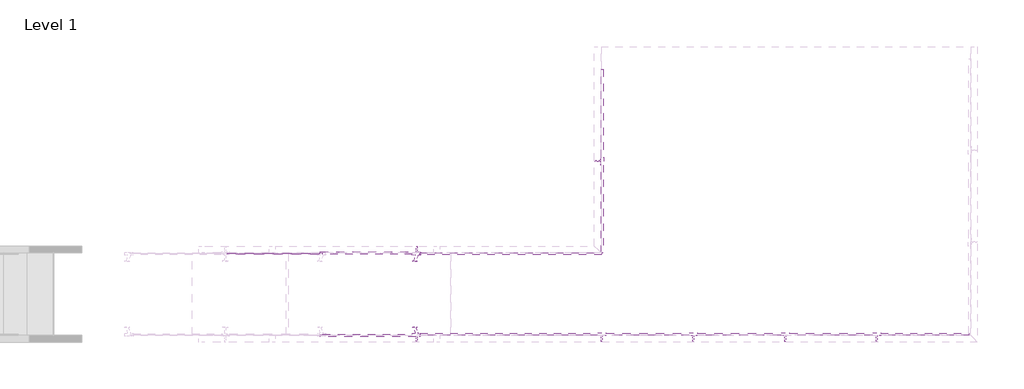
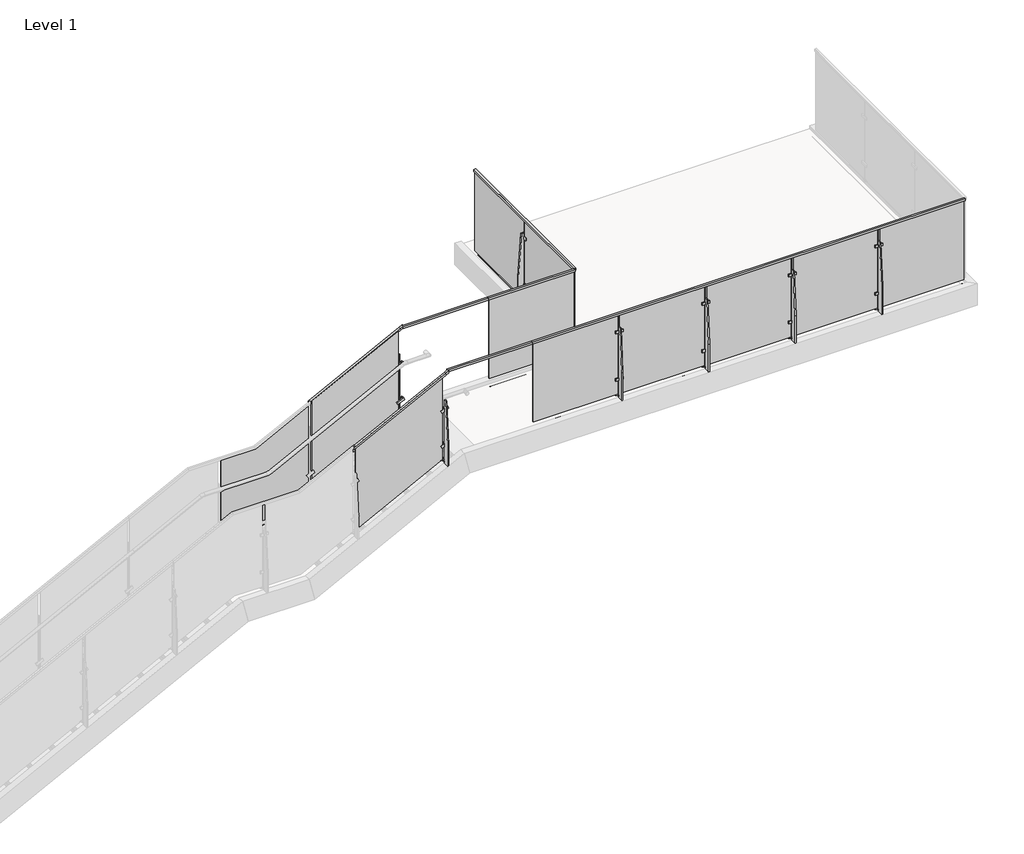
# One storey, part 29 of 37: 6 railings.
"""IFC4 building model written with IfcOpenShell, lengths in millimetres."""

from ifc_helpers import new_model, si_unit, point, frame, frame_2d, origin, place, context, project, spatial, polyline, circle_curve, trimmed, segment, composite_curve, outline, extrude, faceted_brep, transform, mapped, element, save
from components import baluster_landing_panel_viva_solo_upper_standard_glass_274dfbd6

model = new_model("IFC4")

# Units and contexts
model_context = context("Model", 3, world=origin())
ifc_project = project(units=[si_unit("LENGTHUNIT", "METRE", prefix="MILLI")], contexts=[model_context])

# Site, building, storey
site = spatial("IfcSite", under=ifc_project)
building = spatial("IfcBuilding", under=site)
storey = spatial("IfcBuildingStorey", under=building, Name="Level 1", Elevation=0.0)

# Railings
placement = place(None, origin())
element("IfcRailing", 1, ObjectType="VIVA-SOLO-Glass-Top_Weld_Steel-Channel Mount-Stair_Right_Upper", at=placement, inside=storey, context=model_context, shape_type="SolidModel", body=[
    faceted_brep([(6699.3721922, 12955.0881645, 3564.4038176), (6699.3721922, 12977.3131645, 3564.4038176), (6699.3721922, 12977.3131645, 3535.902629), (6699.3721922, 12972.5506645, 3535.902629), (6699.3721922, 12972.5506645, 3559.0598447), (6699.3721922, 12959.8506645, 3559.0598447), (6699.3721922, 12959.8506645, 3535.902629), (6699.3721922, 12955.0881645, 3535.902629), (7766.1721922, 12955.0881645, 4107.4197243), (7766.1721922, 12977.3131645, 4107.4197243), (7777.694355, 12977.3131645, 4084.7834754), (7777.694355, 12972.5506645, 4084.7834754), (7768.3325977, 12972.5506645, 4103.1754276), (7768.3325977, 12959.8506645, 4103.1754276), (7777.694355, 12959.8506645, 4084.7834754), (7777.694355, 12955.0881645, 4084.7834754), (7805.6215672, 12955.0881645, 4127.5), (7805.6215672, 12955.0881645, 4098.9988114), (7805.6215672, 12959.8506645, 4098.9988114), (7805.6215672, 12959.8506645, 4122.1560271), (7805.6215672, 12972.5506645, 4122.1560271), (7805.6215672, 12972.5506645, 4098.9988114), (7805.6215672, 12977.3131645, 4098.9988114), (7805.6215672, 12977.3131645, 4127.5)], [[[0, 1, 2, 3, 4, 5, 6, 7]], [[1, 0, 8, 9]], [[2, 1, 9, 10]], [[3, 2, 10, 11]], [[4, 3, 11, 12]], [[5, 4, 12, 13]], [[6, 5, 13, 14]], [[7, 6, 14, 15]], [[0, 7, 15, 8]], [[16, 17, 18, 19, 20, 21, 22, 23]], [[9, 8, 16, 23]], [[10, 9, 23, 22]], [[11, 10, 22, 21]], [[12, 11, 21, 20]], [[13, 12, 20, 19]], [[14, 13, 19, 18]], [[15, 14, 18, 17]], [[8, 15, 17, 16]]]),
    extrude(outline(polyline([(4089.1567741, 7741.1552388), (3571.9987678, 6725.1552388), (2520.7181612, 6725.1552388), (3037.8761676, 7741.1552388), (4089.1567741, 7741.1552388)])), frame((0.0, 12969.7566645, 0.0), z_axis=(0.0, 1.0, 0.0), x_axis=(0.0, 0.0, 1.0)), (0.0, 0.0, 1.0), 12.7),
    extrude(outline(polyline([(-12.7, 0.0), (-12.7, 3.175), (50.8, 65.0875), (61.9125, 65.0875), (61.9125, 34.9249999), (58.7375, 34.9249999), (0.0, 3.175), (0.0, 0.0), (-12.7, 0.0)])), frame((7738.5545874, 13054.1451983, 3695.170901), z_axis=(0.8987940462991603, 0.0, 0.4383711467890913), x_axis=(0.0, -1.0, 0.0)), (0.0, 0.0, 1.0), 12.7),
    extrude(outline(polyline([(12960.1681645, 3777.2197243), (12960.1681645, 2987.3051177), (12896.6681645, 2987.3051177), (12896.6681645, 3243.8197243), (12934.7681645, 3777.2197243), (12960.1681645, 3777.2197243)])), frame((7759.8221922, 0.0, 0.0), z_axis=(1.0, 0.0, 0.0), x_axis=(0.0, 1.0, 0.0)), (0.0, 0.0, 1.0), 12.7),
    extrude(outline(polyline([(0.0, -88.9), (0.0, 0.0), (9.525, 0.0), (9.525, -88.9), (0.0, -88.9)])), frame((7813.093764, 12970.0076983, 3221.0481954), z_axis=(-0.4383711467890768, 0.0, 0.8987940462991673), x_axis=(0.0, -1.0, 0.0)), (0.0, 0.0, 1.0), 31.75),
    extrude(outline(polyline([(0.0, -88.9), (0.0, 0.0), (9.525, 0.0), (9.525, -88.9), (0.0, -88.9)])), frame((7813.093764, 12992.2326983, 3658.22648), z_axis=(-0.4383711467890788, 0.0, 0.8987940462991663), x_axis=(0.0, -1.0, 0.0)), (0.0, 0.0, 1.0), 31.75),
    extrude(outline(polyline([(0.0, -88.9), (0.0, 0.0), (9.525, 0.0), (9.525, -88.9), (0.0, -88.9)])), frame((7813.093764, 12970.0076983, 3658.22648), z_axis=(-0.4383711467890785, 0.0, 0.8987940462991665), x_axis=(0.0, -1.0, 0.0)), (0.0, 0.0, 1.0), 31.75),
    extrude(outline(polyline([(0.0, -88.9), (0.0, 0.0), (9.525, 0.0), (9.525, -88.9), (0.0, -88.9)])), frame((7813.093764, 12992.2326983, 3221.0481954), z_axis=(-0.43837114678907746, 0.0, 0.898794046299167), x_axis=(0.0, -1.0, 0.0)), (0.0, 0.0, 1.0), 31.75),
    extrude(outline(polyline([(3064.4962763, 7801.9451494), (3070.2036185, 7799.1614927), (3031.2324235, 7719.2587019), (3025.5250813, 7722.0423587), (3025.313923, 7771.6005038), (3064.4962763, 7801.9451494)])), frame((0.0, 12970.0076983, 0.0), z_axis=(0.0, 1.0, 0.0), x_axis=(0.0, 0.0, 1.0)), (0.0, 0.0, 1.0), 12.7),
    extrude(outline(composite_curve([segment(polyline([(0.0, 0.0), (2.8057896, 0.0)]), True, "CONTINUOUS"), segment(trimmed(circle_curve(frame_2d((26.8875078, 8.0765616)), 25.4), [point((2.8057896, 0.0))], [point((8.7901892, -9.7460941))], True, "CARTESIAN"), True, "CONTINUOUS"), segment(polyline([(8.7901892, -9.7460941), (6.4034746, -11.1240644)]), True, "CONTINUOUS"), segment(trimmed(circle_curve(frame_2d((24.5007933, 6.6985913)), 25.4), [point((6.4034746, -11.1240644))], [point((0.0, 0.0))], False, "CARTESIAN"), True, "CONTINUOUS")], self_intersect=False)), frame((7722.6334698, 13054.0459519, 3684.3577023), z_axis=(0.8987940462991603, 0.0, 0.4383711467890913), x_axis=(-0.3796405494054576, 0.5000000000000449, 0.7783784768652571)), (0.0, 0.0, 1.0), 50.8),
    extrude(outline(composite_curve([segment(trimmed(circle_curve(frame_2d((3234.0755783, 7766.1832267)), 6.35), [point((3234.0755783, 7772.5332267))], [point((3234.0755783, 7759.8332267))], False, "CARTESIAN"), True, "CONTINUOUS"), segment(trimmed(circle_curve(frame_2d((3234.0755783, 7766.1832267)), 6.35), [point((3234.0755783, 7759.8332267))], [point((3234.0755783, 7772.5332267))], False, "CARTESIAN"), True, "CONTINUOUS")], self_intersect=False)), frame((0.0, 12970.0076983, 0.0), z_axis=(0.0, 1.0, 0.0), x_axis=(0.0, 0.0, 1.0)), (0.0, 0.0, 1.0), 12.7),
    extrude(outline(composite_curve([segment(trimmed(circle_curve(frame_2d((3652.3146879, 7766.1832267)), 6.35), [point((3652.3146879, 7772.5332267))], [point((3652.3146879, 7759.8332267))], False, "CARTESIAN"), True, "CONTINUOUS"), segment(trimmed(circle_curve(frame_2d((3652.3146879, 7766.1832267)), 6.35), [point((3652.3146879, 7759.8332267))], [point((3652.3146879, 7772.5332267))], False, "CARTESIAN"), True, "CONTINUOUS")], self_intersect=False)), frame((0.0, 12970.0076983, 0.0), z_axis=(0.0, 1.0, 0.0), x_axis=(0.0, 0.0, 1.0)), (0.0, 0.0, 1.0), 12.7),
    extrude(outline(composite_curve([segment(trimmed(circle_curve(frame_2d((3011.1911149, 7766.1832267)), 11.1125), [point((3011.1911149, 7777.2957267))], [point((3011.1911149, 7755.0707267))], False, "CARTESIAN"), True, "CONTINUOUS"), segment(trimmed(circle_curve(frame_2d((3011.1911149, 7766.1832267)), 11.1125), [point((3011.1911149, 7755.0707267))], [point((3011.1911149, 7777.2957267))], False, "CARTESIAN"), True, "CONTINUOUS")], self_intersect=False)), frame((0.0, 12960.4826983, 0.0), z_axis=(0.0, 1.0, 0.0), x_axis=(0.0, 0.0, 1.0)), (0.0, 0.0, 1.0), 25.4),
])
element("IfcRailing", 2, ObjectType="VIVA-SOLO-Glass-Top_Weld_Steel-Channel Mount-Stair_Left", at=placement, inside=storey, context=model_context, shape_type="SolidModel", body=[
    faceted_brep([(6699.3721922, 13874.5681645, 3564.4038176), (6699.3721922, 13896.7931645, 3564.4038176), (6699.3721922, 13896.7931645, 3535.902629), (6699.3721922, 13892.0306645, 3535.902629), (6699.3721922, 13892.0306645, 3559.0598447), (6699.3721922, 13879.3306645, 3559.0598447), (6699.3721922, 13879.3306645, 3535.902629), (6699.3721922, 13874.5681645, 3535.902629), (7766.1721922, 13874.5681645, 4107.4197243), (7766.1721922, 13896.7931645, 4107.4197243), (7777.694355, 13896.7931645, 4084.7834754), (7777.694355, 13892.0306645, 4084.7834754), (7768.3325977, 13892.0306645, 4103.1754276), (7768.3325977, 13879.3306645, 4103.1754276), (7777.694355, 13879.3306645, 4084.7834754), (7777.694355, 13874.5681645, 4084.7834754), (7805.6215672, 13874.5681645, 4127.5), (7805.6215672, 13874.5681645, 4098.9988114), (7805.6215672, 13879.3306645, 4098.9988114), (7805.6215672, 13879.3306645, 4122.1560271), (7805.6215672, 13892.0306645, 4122.1560271), (7805.6215672, 13892.0306645, 4098.9988114), (7805.6215672, 13896.7931645, 4098.9988114), (7805.6215672, 13896.7931645, 4127.5)], [[[0, 1, 2, 3, 4, 5, 6, 7]], [[1, 0, 8, 9]], [[2, 1, 9, 10]], [[3, 2, 10, 11]], [[4, 3, 11, 12]], [[5, 4, 12, 13]], [[6, 5, 13, 14]], [[7, 6, 14, 15]], [[0, 7, 15, 8]], [[16, 17, 18, 19, 20, 21, 22, 23]], [[9, 8, 16, 23]], [[10, 9, 23, 22]], [[11, 10, 22, 21]], [[12, 11, 21, 20]], [[13, 12, 20, 19]], [[14, 13, 19, 18]], [[15, 14, 18, 17]], [[8, 15, 17, 16]]]),
    extrude(outline(polyline([(4089.1567741, 7741.1552388), (3571.9987678, 6725.1552388), (2520.7181612, 6725.1552388), (3037.8761676, 7741.1552388), (4089.1567741, 7741.1552388)])), frame((0.0, 13869.4246645, 0.0), z_axis=(0.0, 1.0, 0.0), x_axis=(0.0, 0.0, 1.0)), (0.0, 0.0, 1.0), 12.7),
    extrude(outline(polyline([(-12.7, 0.0), (0.0, 0.0), (0.0, -3.175), (58.7375, -34.9249999), (61.9125, -34.9249999), (61.9125, -65.0875), (50.8, -65.0875), (-12.7, -3.175), (-12.7, 0.0)])), frame((7738.5545874, 13797.7361306, 3695.170901), z_axis=(0.8987940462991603, 0.0, 0.4383711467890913), x_axis=(0.0, 1.0, 0.0)), (0.0, 0.0, 1.0), 12.7),
    extrude(outline(polyline([(13891.7131645, 3777.2197243), (13917.1131645, 3777.2197243), (13955.2131645, 3243.8197243), (13955.2131645, 2987.3051177), (13891.7131645, 2987.3051177), (13891.7131645, 3777.2197243)])), frame((7759.8221922, 0.0, 0.0), z_axis=(1.0, 0.0, 0.0), x_axis=(0.0, 1.0, 0.0)), (0.0, 0.0, 1.0), 12.7),
    extrude(outline(polyline([(0.0, 88.9), (9.525, 88.9), (9.525, 0.0), (0.0, 0.0), (0.0, 88.9)])), frame((7813.093764, 13881.8736306, 3221.0481954), z_axis=(-0.4383711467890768, 0.0, 0.8987940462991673), x_axis=(0.0, 1.0, 0.0)), (0.0, 0.0, 1.0), 31.75),
    extrude(outline(polyline([(0.0, 88.9), (9.525, 88.9), (9.525, 0.0), (0.0, 0.0), (0.0, 88.9)])), frame((7813.093764, 13859.6486306, 3658.22648), z_axis=(-0.4383711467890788, 0.0, 0.8987940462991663), x_axis=(0.0, 1.0, 0.0)), (0.0, 0.0, 1.0), 31.75),
    extrude(outline(polyline([(0.0, 88.9), (9.525, 88.9), (9.525, 0.0), (0.0, 0.0), (0.0, 88.9)])), frame((7813.093764, 13881.8736306, 3658.22648), z_axis=(-0.4383711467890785, 0.0, 0.8987940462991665), x_axis=(0.0, 1.0, 0.0)), (0.0, 0.0, 1.0), 31.75),
    extrude(outline(polyline([(0.0, 88.9), (9.525, 88.9), (9.525, 0.0), (0.0, 0.0), (0.0, 88.9)])), frame((7813.093764, 13859.6486306, 3221.0481954), z_axis=(-0.43837114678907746, 0.0, 0.898794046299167), x_axis=(0.0, 1.0, 0.0)), (0.0, 0.0, 1.0), 31.75),
    extrude(outline(polyline([(3064.4962763, 7801.9451494), (3070.2036185, 7799.1614927), (3031.2324235, 7719.2587019), (3025.5250813, 7722.0423587), (3025.313923, 7771.6005038), (3064.4962763, 7801.9451494)])), frame((0.0, 13869.1736306, 0.0), z_axis=(0.0, 1.0, 0.0), x_axis=(0.0, 0.0, 1.0)), (0.0, 0.0, 1.0), 12.7),
    extrude(outline(composite_curve([segment(trimmed(circle_curve(frame_2d((24.5007933, -6.6985913)), 25.4), [point((0.0, 0.0))], [point((6.4034746, 11.1240644))], False, "CARTESIAN"), True, "CONTINUOUS"), segment(polyline([(6.4034746, 11.1240644), (8.7901892, 9.7460941)]), True, "CONTINUOUS"), segment(trimmed(circle_curve(frame_2d((26.8875078, -8.0765616)), 25.4), [point((8.7901892, 9.7460941))], [point((2.8057896, 0.0))], True, "CARTESIAN"), True, "CONTINUOUS"), segment(polyline([(2.8057896, 0.0), (0.0, 0.0)]), True, "CONTINUOUS")], self_intersect=False)), frame((7722.6334698, 13797.835377, 3684.3577023), z_axis=(0.8987940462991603, 0.0, 0.4383711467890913), x_axis=(-0.3796405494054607, -0.5000000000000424, 0.7783784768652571)), (0.0, 0.0, 1.0), 50.8),
    extrude(outline(composite_curve([segment(trimmed(circle_curve(frame_2d((3234.0755783, 7766.1832267)), 6.35), [point((3234.0755783, 7772.5332267))], [point((3234.0755783, 7759.8332267))], False, "CARTESIAN"), True, "CONTINUOUS"), segment(trimmed(circle_curve(frame_2d((3234.0755783, 7766.1832267)), 6.35), [point((3234.0755783, 7759.8332267))], [point((3234.0755783, 7772.5332267))], False, "CARTESIAN"), True, "CONTINUOUS")], self_intersect=False)), frame((0.0, 13869.1736306, 0.0), z_axis=(0.0, 1.0, 0.0), x_axis=(0.0, 0.0, 1.0)), (0.0, 0.0, 1.0), 12.7),
    extrude(outline(composite_curve([segment(trimmed(circle_curve(frame_2d((3652.3146879, 7766.1832267)), 6.35), [point((3652.3146879, 7772.5332267))], [point((3652.3146879, 7759.8332267))], False, "CARTESIAN"), True, "CONTINUOUS"), segment(trimmed(circle_curve(frame_2d((3652.3146879, 7766.1832267)), 6.35), [point((3652.3146879, 7759.8332267))], [point((3652.3146879, 7772.5332267))], False, "CARTESIAN"), True, "CONTINUOUS")], self_intersect=False)), frame((0.0, 13869.1736306, 0.0), z_axis=(0.0, 1.0, 0.0), x_axis=(0.0, 0.0, 1.0)), (0.0, 0.0, 1.0), 12.7),
    extrude(outline(composite_curve([segment(trimmed(circle_curve(frame_2d((3011.1911149, 7766.1832267)), 11.1125), [point((3011.1911149, 7777.2957267))], [point((3011.1911149, 7755.0707267))], False, "CARTESIAN"), True, "CONTINUOUS"), segment(trimmed(circle_curve(frame_2d((3011.1911149, 7766.1832267)), 11.1125), [point((3011.1911149, 7755.0707267))], [point((3011.1911149, 7777.2957267))], False, "CARTESIAN"), True, "CONTINUOUS")], self_intersect=False)), frame((0.0, 13865.9986306, 0.0), z_axis=(0.0, 1.0, 0.0), x_axis=(0.0, 0.0, 1.0)), (0.0, 0.0, 1.0), 25.4),
])
element("IfcRailing", 3, ObjectType="VIVA-SOLO-Glass-Top_Weld_Steel-Channel Mount-Straight", at=placement, inside=storey, context=model_context, shape_type="SolidModel", body=[
    extrude(outline(composite_curve([segment(trimmed(circle_curve(frame_2d((13017.1276645, 3047.746)), 0.254), [point((13016.8736645, 3047.746))], [point((13017.3816645, 3047.746))], False, "CARTESIAN"), True, "CONTINUOUS"), segment(trimmed(circle_curve(frame_2d((13017.1276645, 3047.746)), 0.254), [point((13017.3816645, 3047.746))], [point((13016.8736645, 3047.746))], False, "CARTESIAN"), True, "CONTINUOUS")], self_intersect=False)), frame((8799.6346922, 0.0, 0.0), z_axis=(1.0, 0.0, 0.0), x_axis=(0.0, 1.0, 0.0)), (0.0, 0.0, 1.0), 5080.0),
    extrude(outline(composite_curve([segment(trimmed(circle_curve(frame_2d((13017.1276645, 3047.746)), 0.254), [point((13016.8736645, 3047.746))], [point((13017.3816645, 3047.746))], False, "CARTESIAN"), True, "CONTINUOUS"), segment(trimmed(circle_curve(frame_2d((13017.1276645, 3047.746)), 0.254), [point((13017.3816645, 3047.746))], [point((13016.8736645, 3047.746))], False, "CARTESIAN"), True, "CONTINUOUS")], self_intersect=False)), frame((8799.6346922, 0.0, 0.0), z_axis=(1.0, 0.0, 0.0), x_axis=(0.0, 1.0, 0.0)), (0.0, 0.0, 1.0), 5080.0),
    faceted_brep([(13879.6346922, 12969.8201645, 4127.5), (13879.6346922, 12969.8201645, 4102.1), (13879.6346922, 12974.5826645, 4102.1), (13879.6346922, 12974.5826645, 4122.7375), (13879.6346922, 12987.2826645, 4122.7375), (13879.6346922, 12987.2826645, 4102.1), (13879.6346922, 12992.0451645, 4102.1), (13879.6346922, 12992.0451645, 4127.5), (8799.6346922, 12992.0451645, 4127.5), (8799.6346922, 12969.8201645, 4127.5), (8799.6346922, 12992.0451645, 4102.1), (8799.6346922, 12987.2826645, 4102.1), (8799.6346922, 12987.2826645, 4122.7375), (8799.6346922, 12974.5826645, 4122.7375), (8799.6346922, 12974.5826645, 4102.1), (8799.6346922, 12969.8201645, 4102.1), (7805.6215672, 12969.8201645, 4127.5), (7805.6215672, 12992.0451645, 4127.5), (7805.6215672, 12992.0451645, 4102.1), (7805.6215672, 12987.2826645, 4102.1), (7805.6215672, 12987.2826645, 4122.7375), (7805.6215672, 12974.5826645, 4122.7375), (7805.6215672, 12974.5826645, 4102.1), (7805.6215672, 12969.8201645, 4102.1)], [[[0, 1, 2, 3, 4, 5, 6, 7]], [[8, 9, 0, 7]], [[10, 8, 7, 6]], [[11, 10, 6, 5]], [[12, 11, 5, 4]], [[13, 12, 4, 3]], [[14, 13, 3, 2]], [[15, 14, 2, 1]], [[9, 15, 1, 0]], [[16, 17, 18, 19, 20, 21, 22, 23]], [[17, 16, 9, 8]], [[18, 17, 8, 10]], [[19, 18, 10, 11]], [[20, 19, 11, 12]], [[21, 20, 12, 13]], [[22, 21, 13, 14]], [[23, 22, 14, 15]], [[16, 23, 15, 9]]]),
    extrude(outline(polyline([(12876.7177388, 12987.2826645), (13867.3177388, 12987.2826645), (13867.3177388, 12974.5826645), (12876.7177388, 12974.5826645), (12876.7177388, 12987.2826645)])), frame((0.0, 0.0, 3124.2), z_axis=(0.0, 0.0, 1.0), x_axis=(1.0, 0.0, 0.0)), (0.0, 0.0, 1.0), 998.474),
    extrude(outline(polyline([(12965.0576645, 3962.4), (12965.0576645, 3086.1), (12901.5576645, 3086.1), (12901.5576645, 3429.0), (12939.6576645, 3962.4), (12965.0576645, 3962.4)])), frame((12857.2846922, 0.0, 0.0), z_axis=(1.0, 0.0, 0.0), x_axis=(0.0, 1.0, 0.0)), (0.0, 0.0, 1.0), 12.7),
    extrude(outline(polyline([(12819.1846922, 12974.5826645), (12908.0846922, 12974.5826645), (12908.0846922, 12965.0576645), (12819.1846922, 12965.0576645), (12819.1846922, 12974.5826645)])), frame((0.0, 0.0, 3299.9910694), z_axis=(0.0, 0.0, 1.0), x_axis=(1.0, 0.0, 0.0)), (0.0, 0.0, 1.0), 31.75),
    extrude(outline(polyline([(12819.1846922, 12974.5826645), (12908.0846922, 12974.5826645), (12908.0846922, 12965.0576645), (12819.1846922, 12965.0576645), (12819.1846922, 12974.5826645)])), frame((0.0, 0.0, 3886.2992187), z_axis=(0.0, 0.0, 1.0), x_axis=(1.0, 0.0, 0.0)), (0.0, 0.0, 1.0), 31.75),
    extrude(outline(polyline([(12819.1846922, 12996.8076645), (12908.0846922, 12996.8076645), (12908.0846922, 12987.2826645), (12819.1846922, 12987.2826645), (12819.1846922, 12996.8076645)])), frame((0.0, 0.0, 3299.9910694), z_axis=(0.0, 0.0, 1.0), x_axis=(1.0, 0.0, 0.0)), (0.0, 0.0, 1.0), 31.75),
    extrude(outline(polyline([(12819.1846922, 12996.8076645), (12908.0846922, 12996.8076645), (12908.0846922, 12987.2826645), (12819.1846922, 12987.2826645), (12819.1846922, 12996.8076645)])), frame((0.0, 0.0, 3886.2992187), z_axis=(0.0, 0.0, 1.0), x_axis=(1.0, 0.0, 0.0)), (0.0, 0.0, 1.0), 31.75),
    extrude(outline(polyline([(3124.2, 12908.0846922), (3124.2, 12819.1846922), (3117.85, 12819.1846922), (3095.9353513, 12863.6346922), (3117.85, 12908.0846922), (3124.2, 12908.0846922)])), frame((0.0, 12974.5826645, 0.0), z_axis=(0.0, 1.0, 0.0), x_axis=(0.0, 0.0, 1.0)), (0.0, 0.0, 1.0), 12.7),
    extrude(outline(composite_curve([segment(trimmed(circle_curve(frame_2d((3315.8660694, 12863.6346922)), 6.35), [point((3315.8660694, 12869.9846922))], [point((3315.8660694, 12857.2846922))], False, "CARTESIAN"), True, "CONTINUOUS"), segment(trimmed(circle_curve(frame_2d((3315.8660694, 12863.6346922)), 6.35), [point((3315.8660694, 12857.2846922))], [point((3315.8660694, 12869.9846922))], False, "CARTESIAN"), True, "CONTINUOUS")], self_intersect=False)), frame((0.0, 12974.5826645, 0.0), z_axis=(0.0, 1.0, 0.0), x_axis=(0.0, 0.0, 1.0)), (0.0, 0.0, 1.0), 12.7),
    extrude(outline(composite_curve([segment(trimmed(circle_curve(frame_2d((3902.1742187, 12863.6346922)), 6.35), [point((3902.1742187, 12869.9846922))], [point((3902.1742187, 12857.2846922))], False, "CARTESIAN"), True, "CONTINUOUS"), segment(trimmed(circle_curve(frame_2d((3902.1742187, 12863.6346922)), 6.35), [point((3902.1742187, 12857.2846922))], [point((3902.1742187, 12869.9846922))], False, "CARTESIAN"), True, "CONTINUOUS")], self_intersect=False)), frame((0.0, 12974.5826645, 0.0), z_axis=(0.0, 1.0, 0.0), x_axis=(0.0, 0.0, 1.0)), (0.0, 0.0, 1.0), 12.7),
    extrude(outline(composite_curve([segment(trimmed(circle_curve(frame_2d((3108.325, 12863.6346922)), 11.1125), [point((3108.325, 12874.7471922))], [point((3108.325, 12852.5221922))], False, "CARTESIAN"), True, "CONTINUOUS"), segment(trimmed(circle_curve(frame_2d((3108.325, 12863.6346922)), 11.1125), [point((3108.325, 12852.5221922))], [point((3108.325, 12874.7471922))], False, "CARTESIAN"), True, "CONTINUOUS")], self_intersect=False)), frame((0.0, 12965.0576645, 0.0), z_axis=(0.0, 1.0, 0.0), x_axis=(0.0, 0.0, 1.0)), (0.0, 0.0, 1.0), 25.4),
    extrude(outline(polyline([(11860.7177388, 12987.2826645), (12851.3177388, 12987.2826645), (12851.3177388, 12974.5826645), (11860.7177388, 12974.5826645), (11860.7177388, 12987.2826645)])), frame((0.0, 0.0, 3124.2), z_axis=(0.0, 0.0, 1.0), x_axis=(1.0, 0.0, 0.0)), (0.0, 0.0, 1.0), 998.474),
    extrude(outline(polyline([(12965.0576645, 3962.4), (12965.0576645, 3086.1), (12901.5576645, 3086.1), (12901.5576645, 3429.0), (12939.6576645, 3962.4), (12965.0576645, 3962.4)])), frame((11841.2846922, 0.0, 0.0), z_axis=(1.0, 0.0, 0.0), x_axis=(0.0, 1.0, 0.0)), (0.0, 0.0, 1.0), 12.7),
    extrude(outline(polyline([(11803.1846922, 12974.5826645), (11892.0846922, 12974.5826645), (11892.0846922, 12965.0576645), (11803.1846922, 12965.0576645), (11803.1846922, 12974.5826645)])), frame((0.0, 0.0, 3299.9910694), z_axis=(0.0, 0.0, 1.0), x_axis=(1.0, 0.0, 0.0)), (0.0, 0.0, 1.0), 31.75),
    extrude(outline(polyline([(11803.1846922, 12974.5826645), (11892.0846922, 12974.5826645), (11892.0846922, 12965.0576645), (11803.1846922, 12965.0576645), (11803.1846922, 12974.5826645)])), frame((0.0, 0.0, 3886.2992187), z_axis=(0.0, 0.0, 1.0), x_axis=(1.0, 0.0, 0.0)), (0.0, 0.0, 1.0), 31.75),
    extrude(outline(polyline([(11803.1846922, 12996.8076645), (11892.0846922, 12996.8076645), (11892.0846922, 12987.2826645), (11803.1846922, 12987.2826645), (11803.1846922, 12996.8076645)])), frame((0.0, 0.0, 3299.9910694), z_axis=(0.0, 0.0, 1.0), x_axis=(1.0, 0.0, 0.0)), (0.0, 0.0, 1.0), 31.75),
    extrude(outline(polyline([(11803.1846922, 12996.8076645), (11892.0846922, 12996.8076645), (11892.0846922, 12987.2826645), (11803.1846922, 12987.2826645), (11803.1846922, 12996.8076645)])), frame((0.0, 0.0, 3886.2992187), z_axis=(0.0, 0.0, 1.0), x_axis=(1.0, 0.0, 0.0)), (0.0, 0.0, 1.0), 31.75),
    extrude(outline(polyline([(3124.2, 11892.0846922), (3124.2, 11803.1846922), (3117.85, 11803.1846922), (3095.9353513, 11847.6346922), (3117.85, 11892.0846922), (3124.2, 11892.0846922)])), frame((0.0, 12974.5826645, 0.0), z_axis=(0.0, 1.0, 0.0), x_axis=(0.0, 0.0, 1.0)), (0.0, 0.0, 1.0), 12.7),
    extrude(outline(composite_curve([segment(trimmed(circle_curve(frame_2d((3315.8660694, 11847.6346922)), 6.35), [point((3315.8660694, 11853.9846922))], [point((3315.8660694, 11841.2846922))], False, "CARTESIAN"), True, "CONTINUOUS"), segment(trimmed(circle_curve(frame_2d((3315.8660694, 11847.6346922)), 6.35), [point((3315.8660694, 11841.2846922))], [point((3315.8660694, 11853.9846922))], False, "CARTESIAN"), True, "CONTINUOUS")], self_intersect=False)), frame((0.0, 12974.5826645, 0.0), z_axis=(0.0, 1.0, 0.0), x_axis=(0.0, 0.0, 1.0)), (0.0, 0.0, 1.0), 12.7),
    extrude(outline(composite_curve([segment(trimmed(circle_curve(frame_2d((3902.1742187, 11847.6346922)), 6.35), [point((3902.1742187, 11853.9846922))], [point((3902.1742187, 11841.2846922))], False, "CARTESIAN"), True, "CONTINUOUS"), segment(trimmed(circle_curve(frame_2d((3902.1742187, 11847.6346922)), 6.35), [point((3902.1742187, 11841.2846922))], [point((3902.1742187, 11853.9846922))], False, "CARTESIAN"), True, "CONTINUOUS")], self_intersect=False)), frame((0.0, 12974.5826645, 0.0), z_axis=(0.0, 1.0, 0.0), x_axis=(0.0, 0.0, 1.0)), (0.0, 0.0, 1.0), 12.7),
    extrude(outline(composite_curve([segment(trimmed(circle_curve(frame_2d((3108.325, 11847.6346922)), 11.1125), [point((3108.325, 11858.7471922))], [point((3108.325, 11836.5221922))], False, "CARTESIAN"), True, "CONTINUOUS"), segment(trimmed(circle_curve(frame_2d((3108.325, 11847.6346922)), 11.1125), [point((3108.325, 11836.5221922))], [point((3108.325, 11858.7471922))], False, "CARTESIAN"), True, "CONTINUOUS")], self_intersect=False)), frame((0.0, 12965.0576645, 0.0), z_axis=(0.0, 1.0, 0.0), x_axis=(0.0, 0.0, 1.0)), (0.0, 0.0, 1.0), 25.4),
    extrude(outline(polyline([(10844.7177388, 12987.2826645), (11835.3177388, 12987.2826645), (11835.3177388, 12974.5826645), (10844.7177388, 12974.5826645), (10844.7177388, 12987.2826645)])), frame((0.0, 0.0, 3124.2), z_axis=(0.0, 0.0, 1.0), x_axis=(1.0, 0.0, 0.0)), (0.0, 0.0, 1.0), 998.474),
    extrude(outline(polyline([(12965.0576645, 3962.4), (12965.0576645, 3086.1), (12901.5576645, 3086.1), (12901.5576645, 3429.0), (12939.6576645, 3962.4), (12965.0576645, 3962.4)])), frame((10825.2846922, 0.0, 0.0), z_axis=(1.0, 0.0, 0.0), x_axis=(0.0, 1.0, 0.0)), (0.0, 0.0, 1.0), 12.7),
    extrude(outline(polyline([(10787.1846922, 12974.5826645), (10876.0846922, 12974.5826645), (10876.0846922, 12965.0576645), (10787.1846922, 12965.0576645), (10787.1846922, 12974.5826645)])), frame((0.0, 0.0, 3299.9910694), z_axis=(0.0, 0.0, 1.0), x_axis=(1.0, 0.0, 0.0)), (0.0, 0.0, 1.0), 31.75),
    extrude(outline(polyline([(10787.1846922, 12974.5826645), (10876.0846922, 12974.5826645), (10876.0846922, 12965.0576645), (10787.1846922, 12965.0576645), (10787.1846922, 12974.5826645)])), frame((0.0, 0.0, 3886.2992187), z_axis=(0.0, 0.0, 1.0), x_axis=(1.0, 0.0, 0.0)), (0.0, 0.0, 1.0), 31.75),
    extrude(outline(polyline([(10787.1846922, 12996.8076645), (10876.0846922, 12996.8076645), (10876.0846922, 12987.2826645), (10787.1846922, 12987.2826645), (10787.1846922, 12996.8076645)])), frame((0.0, 0.0, 3299.9910694), z_axis=(0.0, 0.0, 1.0), x_axis=(1.0, 0.0, 0.0)), (0.0, 0.0, 1.0), 31.75),
    extrude(outline(polyline([(10787.1846922, 12996.8076645), (10876.0846922, 12996.8076645), (10876.0846922, 12987.2826645), (10787.1846922, 12987.2826645), (10787.1846922, 12996.8076645)])), frame((0.0, 0.0, 3886.2992187), z_axis=(0.0, 0.0, 1.0), x_axis=(1.0, 0.0, 0.0)), (0.0, 0.0, 1.0), 31.75),
    extrude(outline(polyline([(3124.2, 10876.0846922), (3124.2, 10787.1846922), (3117.85, 10787.1846922), (3095.9353513, 10831.6346922), (3117.85, 10876.0846922), (3124.2, 10876.0846922)])), frame((0.0, 12974.5826645, 0.0), z_axis=(0.0, 1.0, 0.0), x_axis=(0.0, 0.0, 1.0)), (0.0, 0.0, 1.0), 12.7),
    extrude(outline(composite_curve([segment(trimmed(circle_curve(frame_2d((3315.8660694, 10831.6346922)), 6.35), [point((3315.8660694, 10837.9846922))], [point((3315.8660694, 10825.2846922))], False, "CARTESIAN"), True, "CONTINUOUS"), segment(trimmed(circle_curve(frame_2d((3315.8660694, 10831.6346922)), 6.35), [point((3315.8660694, 10825.2846922))], [point((3315.8660694, 10837.9846922))], False, "CARTESIAN"), True, "CONTINUOUS")], self_intersect=False)), frame((0.0, 12974.5826645, 0.0), z_axis=(0.0, 1.0, 0.0), x_axis=(0.0, 0.0, 1.0)), (0.0, 0.0, 1.0), 12.7),
    extrude(outline(composite_curve([segment(trimmed(circle_curve(frame_2d((3902.1742187, 10831.6346922)), 6.35), [point((3902.1742187, 10837.9846922))], [point((3902.1742187, 10825.2846922))], False, "CARTESIAN"), True, "CONTINUOUS"), segment(trimmed(circle_curve(frame_2d((3902.1742187, 10831.6346922)), 6.35), [point((3902.1742187, 10825.2846922))], [point((3902.1742187, 10837.9846922))], False, "CARTESIAN"), True, "CONTINUOUS")], self_intersect=False)), frame((0.0, 12974.5826645, 0.0), z_axis=(0.0, 1.0, 0.0), x_axis=(0.0, 0.0, 1.0)), (0.0, 0.0, 1.0), 12.7),
    extrude(outline(composite_curve([segment(trimmed(circle_curve(frame_2d((3108.325, 10831.6346922)), 11.1125), [point((3108.325, 10842.7471922))], [point((3108.325, 10820.5221922))], False, "CARTESIAN"), True, "CONTINUOUS"), segment(trimmed(circle_curve(frame_2d((3108.325, 10831.6346922)), 11.1125), [point((3108.325, 10820.5221922))], [point((3108.325, 10842.7471922))], False, "CARTESIAN"), True, "CONTINUOUS")], self_intersect=False)), frame((0.0, 12965.0576645, 0.0), z_axis=(0.0, 1.0, 0.0), x_axis=(0.0, 0.0, 1.0)), (0.0, 0.0, 1.0), 25.4),
    extrude(outline(polyline([(9828.7177388, 12987.2826645), (10819.3177388, 12987.2826645), (10819.3177388, 12974.5826645), (9828.7177388, 12974.5826645), (9828.7177388, 12987.2826645)])), frame((0.0, 0.0, 3124.2), z_axis=(0.0, 0.0, 1.0), x_axis=(1.0, 0.0, 0.0)), (0.0, 0.0, 1.0), 998.474),
    extrude(outline(polyline([(12965.0576645, 3962.4), (12965.0576645, 3086.1), (12901.5576645, 3086.1), (12901.5576645, 3429.0), (12939.6576645, 3962.4), (12965.0576645, 3962.4)])), frame((9809.2846922, 0.0, 0.0), z_axis=(1.0, 0.0, 0.0), x_axis=(0.0, 1.0, 0.0)), (0.0, 0.0, 1.0), 12.7),
    extrude(outline(polyline([(9771.1846922, 12974.5826645), (9860.0846922, 12974.5826645), (9860.0846922, 12965.0576645), (9771.1846922, 12965.0576645), (9771.1846922, 12974.5826645)])), frame((0.0, 0.0, 3299.9910694), z_axis=(0.0, 0.0, 1.0), x_axis=(1.0, 0.0, 0.0)), (0.0, 0.0, 1.0), 31.75),
    extrude(outline(polyline([(9771.1846922, 12974.5826645), (9860.0846922, 12974.5826645), (9860.0846922, 12965.0576645), (9771.1846922, 12965.0576645), (9771.1846922, 12974.5826645)])), frame((0.0, 0.0, 3886.2992187), z_axis=(0.0, 0.0, 1.0), x_axis=(1.0, 0.0, 0.0)), (0.0, 0.0, 1.0), 31.75),
    extrude(outline(polyline([(9771.1846922, 12996.8076645), (9860.0846922, 12996.8076645), (9860.0846922, 12987.2826645), (9771.1846922, 12987.2826645), (9771.1846922, 12996.8076645)])), frame((0.0, 0.0, 3299.9910694), z_axis=(0.0, 0.0, 1.0), x_axis=(1.0, 0.0, 0.0)), (0.0, 0.0, 1.0), 31.75),
    extrude(outline(polyline([(9771.1846922, 12996.8076645), (9860.0846922, 12996.8076645), (9860.0846922, 12987.2826645), (9771.1846922, 12987.2826645), (9771.1846922, 12996.8076645)])), frame((0.0, 0.0, 3886.2992187), z_axis=(0.0, 0.0, 1.0), x_axis=(1.0, 0.0, 0.0)), (0.0, 0.0, 1.0), 31.75),
    extrude(outline(polyline([(3124.2, 9860.0846922), (3124.2, 9771.1846922), (3117.85, 9771.1846922), (3095.9353513, 9815.6346922), (3117.85, 9860.0846922), (3124.2, 9860.0846922)])), frame((0.0, 12974.5826645, 0.0), z_axis=(0.0, 1.0, 0.0), x_axis=(0.0, 0.0, 1.0)), (0.0, 0.0, 1.0), 12.7),
    extrude(outline(composite_curve([segment(trimmed(circle_curve(frame_2d((3315.8660694, 9815.6346922)), 6.35), [point((3315.8660694, 9821.9846922))], [point((3315.8660694, 9809.2846922))], False, "CARTESIAN"), True, "CONTINUOUS"), segment(trimmed(circle_curve(frame_2d((3315.8660694, 9815.6346922)), 6.35), [point((3315.8660694, 9809.2846922))], [point((3315.8660694, 9821.9846922))], False, "CARTESIAN"), True, "CONTINUOUS")], self_intersect=False)), frame((0.0, 12974.5826645, 0.0), z_axis=(0.0, 1.0, 0.0), x_axis=(0.0, 0.0, 1.0)), (0.0, 0.0, 1.0), 12.7),
    extrude(outline(composite_curve([segment(trimmed(circle_curve(frame_2d((3902.1742187, 9815.6346922)), 6.35), [point((3902.1742187, 9821.9846922))], [point((3902.1742187, 9809.2846922))], False, "CARTESIAN"), True, "CONTINUOUS"), segment(trimmed(circle_curve(frame_2d((3902.1742187, 9815.6346922)), 6.35), [point((3902.1742187, 9809.2846922))], [point((3902.1742187, 9821.9846922))], False, "CARTESIAN"), True, "CONTINUOUS")], self_intersect=False)), frame((0.0, 12974.5826645, 0.0), z_axis=(0.0, 1.0, 0.0), x_axis=(0.0, 0.0, 1.0)), (0.0, 0.0, 1.0), 12.7),
    extrude(outline(composite_curve([segment(trimmed(circle_curve(frame_2d((3108.325, 9815.6346922)), 11.1125), [point((3108.325, 9826.7471922))], [point((3108.325, 9804.5221922))], False, "CARTESIAN"), True, "CONTINUOUS"), segment(trimmed(circle_curve(frame_2d((3108.325, 9815.6346922)), 11.1125), [point((3108.325, 9804.5221922))], [point((3108.325, 9826.7471922))], False, "CARTESIAN"), True, "CONTINUOUS")], self_intersect=False)), frame((0.0, 12965.0576645, 0.0), z_axis=(0.0, 1.0, 0.0), x_axis=(0.0, 0.0, 1.0)), (0.0, 0.0, 1.0), 25.4),
    extrude(outline(polyline([(8812.7177388, 12987.2826645), (9803.3177388, 12987.2826645), (9803.3177388, 12974.5826645), (8812.7177388, 12974.5826645), (8812.7177388, 12987.2826645)])), frame((0.0, 0.0, 3124.2), z_axis=(0.0, 0.0, 1.0), x_axis=(1.0, 0.0, 0.0)), (0.0, 0.0, 1.0), 998.474),
])
element("IfcRailing", 4, ObjectType="VIVA-SOLO-Glass-Top_Weld_Steel-Channel Mount-Straight", at=placement, inside=storey, context=model_context, shape_type="SolidModel", body=[
    extrude(outline(composite_curve([segment(trimmed(circle_curve(frame_2d((13839.5796645, 3047.746)), 0.254), [point((13839.3256645, 3047.746))], [point((13839.8336645, 3047.746))], False, "CARTESIAN"), True, "CONTINUOUS"), segment(trimmed(circle_curve(frame_2d((13839.5796645, 3047.746)), 0.254), [point((13839.8336645, 3047.746))], [point((13839.3256645, 3047.746))], False, "CARTESIAN"), True, "CONTINUOUS")], self_intersect=False)), frame((8799.6346922, 0.0, 0.0), z_axis=(1.0, 0.0, 0.0), x_axis=(0.0, 1.0, 0.0)), (0.0, 0.0, 1.0), 1016.0),
    extrude(outline(composite_curve([segment(trimmed(circle_curve(frame_2d((13839.5796645, 3047.746)), 0.254), [point((13839.3256645, 3047.746))], [point((13839.8336645, 3047.746))], False, "CARTESIAN"), True, "CONTINUOUS"), segment(trimmed(circle_curve(frame_2d((13839.5796645, 3047.746)), 0.254), [point((13839.8336645, 3047.746))], [point((13839.3256645, 3047.746))], False, "CARTESIAN"), True, "CONTINUOUS")], self_intersect=False)), frame((8799.6346922, 0.0, 0.0), z_axis=(1.0, 0.0, 0.0), x_axis=(0.0, 1.0, 0.0)), (0.0, 0.0, 1.0), 1016.0),
    faceted_brep([(9815.6346922, 13864.6621645, 4127.5), (9815.6346922, 13864.6621645, 4102.1), (9815.6346922, 13869.4246645, 4102.1), (9815.6346922, 13869.4246645, 4122.7375), (9815.6346922, 13882.1246645, 4122.7375), (9815.6346922, 13882.1246645, 4102.1), (9815.6346922, 13886.8871645, 4102.1), (9815.6346922, 13886.8871645, 4127.5), (8799.6346922, 13886.8871645, 4127.5), (8799.6346922, 13864.6621645, 4127.5), (8799.6346922, 13886.8871645, 4102.1), (8799.6346922, 13882.1246645, 4102.1), (8799.6346922, 13882.1246645, 4122.7375), (8799.6346922, 13869.4246645, 4122.7375), (8799.6346922, 13869.4246645, 4102.1), (8799.6346922, 13864.6621645, 4102.1), (7800.5634986, 13864.6621645, 4127.5), (7800.5634986, 13886.8871645, 4127.5), (7800.5634986, 13886.8871645, 4102.1), (7800.5634986, 13882.1246645, 4102.1), (7800.5634986, 13882.1246645, 4122.7375), (7800.5634986, 13869.4246645, 4122.7375), (7800.5634986, 13869.4246645, 4102.1), (7800.5634986, 13864.6621645, 4102.1)], [[[0, 1, 2, 3, 4, 5, 6, 7]], [[8, 9, 0, 7]], [[10, 8, 7, 6]], [[11, 10, 6, 5]], [[12, 11, 5, 4]], [[13, 12, 4, 3]], [[14, 13, 3, 2]], [[15, 14, 2, 1]], [[9, 15, 1, 0]], [[16, 17, 18, 19, 20, 21, 22, 23]], [[17, 16, 9, 8]], [[18, 17, 8, 10]], [[19, 18, 10, 11]], [[20, 19, 11, 12]], [[21, 20, 12, 13]], [[22, 21, 13, 14]], [[23, 22, 14, 15]], [[16, 23, 15, 9]]]),
    extrude(outline(polyline([(8812.7177388, 13869.4246645), (8812.7177388, 13882.1246645), (9803.3177388, 13882.1246645), (9803.3177388, 13869.4246645), (8812.7177388, 13869.4246645)])), frame((0.0, 0.0, 3124.2), z_axis=(0.0, 0.0, 1.0), x_axis=(1.0, 0.0, 0.0)), (0.0, 0.0, 1.0), 998.474),
])
element("IfcRailing", 5, ObjectType="VIVA-SOLO-Glass-Top_Weld_Steel-Channel Mount-Straight", at=placement, inside=storey, context=model_context, shape_type="SweptSolid", body=[
    extrude(outline(composite_curve([segment(trimmed(circle_curve(frame_2d((3047.746, 9859.4765953)), 0.254), [point((3047.746, 9859.7305953))], [point((3047.746, 9859.2225953))], False, "CARTESIAN"), True, "CONTINUOUS"), segment(trimmed(circle_curve(frame_2d((3047.746, 9859.4765953)), 0.254), [point((3047.746, 9859.2225953))], [point((3047.746, 9859.7305953))], False, "CARTESIAN"), True, "CONTINUOUS")], self_intersect=False)), frame((0.0, 13884.8448949, 0.0), z_axis=(0.0, 1.0, 0.0), x_axis=(0.0, 0.0, 1.0)), (0.0, 0.0, 1.0), 2032.0),
    extrude(outline(composite_curve([segment(trimmed(circle_curve(frame_2d((3047.746, 9859.4765953)), 0.254), [point((3047.746, 9859.7305953))], [point((3047.746, 9859.2225953))], False, "CARTESIAN"), True, "CONTINUOUS"), segment(trimmed(circle_curve(frame_2d((3047.746, 9859.4765953)), 0.254), [point((3047.746, 9859.2225953))], [point((3047.746, 9859.7305953))], False, "CARTESIAN"), True, "CONTINUOUS")], self_intersect=False)), frame((0.0, 13884.8448949, 0.0), z_axis=(0.0, 1.0, 0.0), x_axis=(0.0, 0.0, 1.0)), (0.0, 0.0, 1.0), 2032.0),
    extrude(outline(polyline([(4127.5, 9834.3940953), (4127.5, 9812.1690953), (4102.1, 9812.1690953), (4102.1, 9816.9315953), (4122.7375, 9816.9315953), (4122.7375, 9829.6315953), (4102.1, 9829.6315953), (4102.1, 9834.3940953), (4127.5, 9834.3940953)])), frame((0.0, 13884.8448949, 0.0), z_axis=(0.0, 1.0, 0.0), x_axis=(0.0, 0.0, 1.0)), (0.0, 0.0, 1.0), 2032.0),
    extrude(outline(polyline([(9829.6315953, 14913.9279415), (9816.9315953, 14913.9279415), (9816.9315953, 15904.5279415), (9829.6315953, 15904.5279415), (9829.6315953, 14913.9279415)])), frame((0.0, 0.0, 3124.2), z_axis=(0.0, 0.0, 1.0), x_axis=(1.0, 0.0, 0.0)), (0.0, 0.0, 1.0), 998.474),
    extrude(outline(polyline([(3962.4, 9807.4065953), (3962.4, 9782.0065953), (3429.0, 9743.9065953), (3086.1, 9743.9065953), (3086.1, 9807.4065953), (3962.4, 9807.4065953)])), frame((0.0, 14894.4948949, 0.0), z_axis=(0.0, 1.0, 0.0), x_axis=(0.0, 0.0, 1.0)), (0.0, 0.0, 1.0), 12.7),
    extrude(outline(polyline([(9816.9315953, 14856.3948949), (9807.4065953, 14856.3948949), (9807.4065953, 14945.2948949), (9816.9315953, 14945.2948949), (9816.9315953, 14856.3948949)])), frame((0.0, 0.0, 3299.9910694), z_axis=(0.0, 0.0, 1.0), x_axis=(1.0, 0.0, 0.0)), (0.0, 0.0, 1.0), 31.75),
    extrude(outline(polyline([(9816.9315953, 14856.3948949), (9807.4065953, 14856.3948949), (9807.4065953, 14945.2948949), (9816.9315953, 14945.2948949), (9816.9315953, 14856.3948949)])), frame((0.0, 0.0, 3886.2992187), z_axis=(0.0, 0.0, 1.0), x_axis=(1.0, 0.0, 0.0)), (0.0, 0.0, 1.0), 31.75),
    extrude(outline(polyline([(9839.1565953, 14856.3948949), (9829.6315953, 14856.3948949), (9829.6315953, 14945.2948949), (9839.1565953, 14945.2948949), (9839.1565953, 14856.3948949)])), frame((0.0, 0.0, 3299.9910694), z_axis=(0.0, 0.0, 1.0), x_axis=(1.0, 0.0, 0.0)), (0.0, 0.0, 1.0), 31.75),
    extrude(outline(polyline([(9839.1565953, 14856.3948949), (9829.6315953, 14856.3948949), (9829.6315953, 14945.2948949), (9839.1565953, 14945.2948949), (9839.1565953, 14856.3948949)])), frame((0.0, 0.0, 3886.2992187), z_axis=(0.0, 0.0, 1.0), x_axis=(1.0, 0.0, 0.0)), (0.0, 0.0, 1.0), 31.75),
    extrude(outline(polyline([(14945.2948949, 3124.2), (14945.2948949, 3117.85), (14900.8448949, 3095.9353513), (14856.3948949, 3117.85), (14856.3948949, 3124.2), (14945.2948949, 3124.2)])), frame((9816.9315953, 0.0, 0.0), z_axis=(1.0, 0.0, 0.0), x_axis=(0.0, 1.0, 0.0)), (0.0, 0.0, 1.0), 12.7),
    extrude(outline(composite_curve([segment(trimmed(circle_curve(frame_2d((14900.8448949, 3315.8660694)), 6.35), [point((14907.1948949, 3315.8660694))], [point((14894.4948949, 3315.8660694))], False, "CARTESIAN"), True, "CONTINUOUS"), segment(trimmed(circle_curve(frame_2d((14900.8448949, 3315.8660694)), 6.35), [point((14894.4948949, 3315.8660694))], [point((14907.1948949, 3315.8660694))], False, "CARTESIAN"), True, "CONTINUOUS")], self_intersect=False)), frame((9816.9315953, 0.0, 0.0), z_axis=(1.0, 0.0, 0.0), x_axis=(0.0, 1.0, 0.0)), (0.0, 0.0, 1.0), 12.7),
    extrude(outline(composite_curve([segment(trimmed(circle_curve(frame_2d((14900.8448949, 3902.1742187)), 6.35), [point((14907.1948949, 3902.1742187))], [point((14894.4948949, 3902.1742187))], False, "CARTESIAN"), True, "CONTINUOUS"), segment(trimmed(circle_curve(frame_2d((14900.8448949, 3902.1742187)), 6.35), [point((14894.4948949, 3902.1742187))], [point((14907.1948949, 3902.1742187))], False, "CARTESIAN"), True, "CONTINUOUS")], self_intersect=False)), frame((9816.9315953, 0.0, 0.0), z_axis=(1.0, 0.0, 0.0), x_axis=(0.0, 1.0, 0.0)), (0.0, 0.0, 1.0), 12.7),
    extrude(outline(composite_curve([segment(trimmed(circle_curve(frame_2d((14900.8448949, 3108.325)), 11.1125), [point((14911.9573949, 3108.325))], [point((14889.7323949, 3108.325))], False, "CARTESIAN"), True, "CONTINUOUS"), segment(trimmed(circle_curve(frame_2d((14900.8448949, 3108.325)), 11.1125), [point((14889.7323949, 3108.325))], [point((14911.9573949, 3108.325))], False, "CARTESIAN"), True, "CONTINUOUS")], self_intersect=False)), frame((9807.4065953, 0.0, 0.0), z_axis=(1.0, 0.0, 0.0), x_axis=(0.0, 1.0, 0.0)), (0.0, 0.0, 1.0), 25.4),
    extrude(outline(polyline([(9829.6315953, 13897.9279415), (9816.9315953, 13897.9279415), (9816.9315953, 14888.5279415), (9829.6315953, 14888.5279415), (9829.6315953, 13897.9279415)])), frame((0.0, 0.0, 3124.2), z_axis=(0.0, 0.0, 1.0), x_axis=(1.0, 0.0, 0.0)), (0.0, 0.0, 1.0), 998.474),
])
baluster_landing_panel_viva_solo_upper_standard_glass_shape = baluster_landing_panel_viva_solo_upper_standard_glass_274dfbd6(model_context)
element("IfcRailing", 6, ObjectType="Baluster-Landing-Panel-VIVA-SOLO-Upper : Standard_Glass", at=placement, inside=storey, context=model_context, shape_type="MappedRepresentation", body=[
    mapped(baluster_landing_panel_viva_solo_upper_standard_glass_shape, transform((6687.6128159, 13910.5573937, 2120.3478261), x_axis=(0.0, -1.0, 0.0), y_axis=(1.0, 0.0, 0.0), z_axis=(0.0, 0.0, 1.0))),
])

save(model, "model.ifc")
